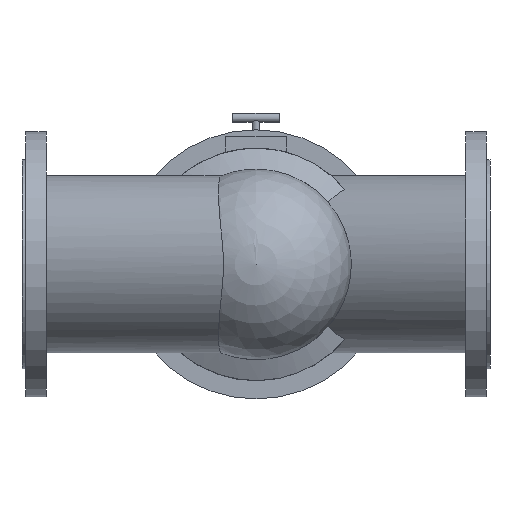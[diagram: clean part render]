
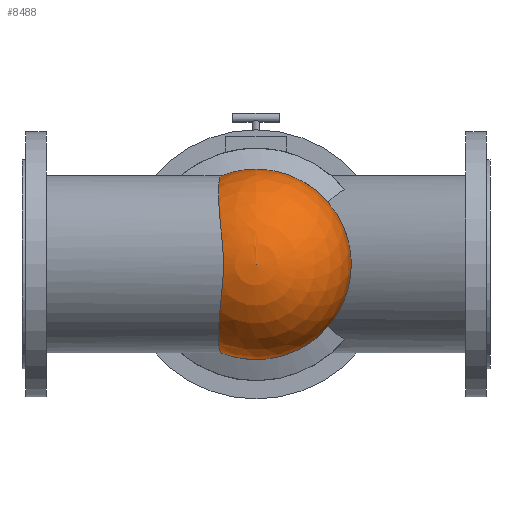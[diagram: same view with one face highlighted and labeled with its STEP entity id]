
A CAD part, front view. The second image highlights one B-rep face of the part: STEP entity #8488.
In plain terms, the highlighted spherical face has radius 122 mm.
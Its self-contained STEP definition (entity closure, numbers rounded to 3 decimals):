
#14=SPHERICAL_SURFACE('',#9021,122.);
#694=B_SPLINE_CURVE_WITH_KNOTS('',3,(#14112,#14113,#14114,#14115,#14116,
#14117,#14118,#14119,#14120,#14121,#14122,#14123,#14124,#14125,#14126,#14127,
#14128,#14129,#14130,#14131,#14132,#14133),.UNSPECIFIED.,.F.,.F.,(4,2,2,
2,2,2,2,2,2,2,4),(0.,1.081,2.161,3.242,
4.322,6.483,8.644,10.848,13.052,
15.256,17.078),.UNSPECIFIED.);
#695=B_SPLINE_CURVE_WITH_KNOTS('',3,(#14134,#14135,#14136,#14137,#14138,
#14139,#14140,#14141,#14142,#14143,#14144,#14145,#14146,#14147,#14148,#14149,
#14150,#14151,#14152,#14153,#14154,#14155),.UNSPECIFIED.,.F.,.F.,(4,2,2,
2,2,2,2,2,2,2,4),(-17.078,-15.256,-13.052,
-10.848,-8.644,-6.483,-4.322,
-3.242,-2.161,-1.081,0.),.UNSPECIFIED.);
#1118=FACE_OUTER_BOUND('',#1619,.T.);
#1619=EDGE_LOOP('',(#7509,#7510,#7511,#7512,#7513,#7514));
#3328=CIRCLE('',#8819,122.);
#3329=CIRCLE('',#8820,122.);
#3402=CIRCLE('',#9022,122.);
#3938=VERTEX_POINT('',#13927);
#3939=VERTEX_POINT('',#13928);
#3940=VERTEX_POINT('',#13930);
#3981=VERTEX_POINT('',#14111);
#4160=VERTEX_POINT('',#14718);
#4961=EDGE_CURVE('',#3938,#3939,#3328,.T.);
#4962=EDGE_CURVE('',#3939,#3940,#3329,.T.);
#5026=EDGE_CURVE('',#3981,#3940,#694,.T.);
#5027=EDGE_CURVE('',#3938,#3981,#695,.T.);
#5297=EDGE_CURVE('',#3939,#4160,#3402,.T.);
#7509=ORIENTED_EDGE('',*,*,#5026,.T.);
#7510=ORIENTED_EDGE('',*,*,#4962,.F.);
#7511=ORIENTED_EDGE('',*,*,#5297,.T.);
#7512=ORIENTED_EDGE('',*,*,#5297,.F.);
#7513=ORIENTED_EDGE('',*,*,#4961,.F.);
#7514=ORIENTED_EDGE('',*,*,#5027,.T.);
#8488=ADVANCED_FACE('',(#1118),#14,.T.);
#8819=AXIS2_PLACEMENT_3D('',#13929,#10175,#10176);
#8820=AXIS2_PLACEMENT_3D('',#13931,#10177,#10178);
#9021=AXIS2_PLACEMENT_3D('',#14717,#10832,#10833);
#9022=AXIS2_PLACEMENT_3D('',#14719,#10834,#10835);
#10175=DIRECTION('center_axis',(0.,1.,0.));
#10176=DIRECTION('ref_axis',(1.,0.,0.));
#10177=DIRECTION('center_axis',(0.,1.,0.));
#10178=DIRECTION('ref_axis',(1.,0.,0.));
#10832=DIRECTION('center_axis',(0.,1.,0.));
#10833=DIRECTION('ref_axis',(0.,0.,-1.));
#10834=DIRECTION('center_axis',(1.,0.,0.));
#10835=DIRECTION('ref_axis',(0.,0.,1.));
#13927=CARTESIAN_POINT('',(-217.093,-132.26,102.687));
#13928=CARTESIAN_POINT('',(-172.193,-132.26,111.25));
#13929=CARTESIAN_POINT('Origin',(-172.193,-132.26,-10.75));
#13930=CARTESIAN_POINT('',(-217.093,-132.26,-124.187));
#13931=CARTESIAN_POINT('Origin',(-172.193,-132.26,-10.75));
#14111=CARTESIAN_POINT('',(-213.91,-246.906,-10.75));
#14112=CARTESIAN_POINT('Ctrl Pts',(-213.91,-246.906,
-10.75));
#14113=CARTESIAN_POINT('Ctrl Pts',(-213.91,-246.906,
-14.352));
#14114=CARTESIAN_POINT('Ctrl Pts',(-214.003,-246.702,
-17.993));
#14115=CARTESIAN_POINT('Ctrl Pts',(-214.351,-245.877,
-25.293));
#14116=CARTESIAN_POINT('Ctrl Pts',(-214.603,-245.256,
-28.952));
#14117=CARTESIAN_POINT('Ctrl Pts',(-215.195,-243.614,-36.229));
#14118=CARTESIAN_POINT('Ctrl Pts',(-215.534,-242.592,
-39.848));
#14119=CARTESIAN_POINT('Ctrl Pts',(-216.232,-240.173,-46.994));
#14120=CARTESIAN_POINT('Ctrl Pts',(-216.591,-238.776,
-50.521));
#14121=CARTESIAN_POINT('Ctrl Pts',(-217.63,-234.065,
-60.883));
#14122=CARTESIAN_POINT('Ctrl Pts',(-218.268,-230.223,-67.507));
#14123=CARTESIAN_POINT('Ctrl Pts',(-219.273,-221.48,
-79.774));
#14124=CARTESIAN_POINT('Ctrl Pts',(-219.643,-216.576,
-85.417));
#14125=CARTESIAN_POINT('Ctrl Pts',(-220.114,-206.118,
-95.523));
#14126=CARTESIAN_POINT('Ctrl Pts',(-220.227,-200.181,
-100.32));
#14127=CARTESIAN_POINT('Ctrl Pts',(-220.171,-187.303,
-108.79));
#14128=CARTESIAN_POINT('Ctrl Pts',(-220.002,-180.363,
-112.462));
#14129=CARTESIAN_POINT('Ctrl Pts',(-219.417,-165.919,
-118.369));
#14130=CARTESIAN_POINT('Ctrl Pts',(-219.,-158.405,
-120.608));
#14131=CARTESIAN_POINT('Ctrl Pts',(-218.078,-144.628,
-123.293));
#14132=CARTESIAN_POINT('Ctrl Pts',(-217.602,-138.374,
-123.986));
#14133=CARTESIAN_POINT('Ctrl Pts',(-217.093,-132.26,
-124.187));
#14134=CARTESIAN_POINT('Ctrl Pts',(-217.093,-132.26,
102.687));
#14135=CARTESIAN_POINT('Ctrl Pts',(-217.602,-138.374,
102.486));
#14136=CARTESIAN_POINT('Ctrl Pts',(-218.078,-144.628,
101.793));
#14137=CARTESIAN_POINT('Ctrl Pts',(-219.,-158.405,
99.108));
#14138=CARTESIAN_POINT('Ctrl Pts',(-219.417,-165.919,
96.869));
#14139=CARTESIAN_POINT('Ctrl Pts',(-220.002,-180.363,
90.962));
#14140=CARTESIAN_POINT('Ctrl Pts',(-220.171,-187.303,
87.29));
#14141=CARTESIAN_POINT('Ctrl Pts',(-220.227,-200.181,
78.82));
#14142=CARTESIAN_POINT('Ctrl Pts',(-220.114,-206.118,
74.023));
#14143=CARTESIAN_POINT('Ctrl Pts',(-219.643,-216.576,
63.917));
#14144=CARTESIAN_POINT('Ctrl Pts',(-219.273,-221.48,
58.274));
#14145=CARTESIAN_POINT('Ctrl Pts',(-218.268,-230.223,46.007));
#14146=CARTESIAN_POINT('Ctrl Pts',(-217.63,-234.065,
39.383));
#14147=CARTESIAN_POINT('Ctrl Pts',(-216.591,-238.776,
29.021));
#14148=CARTESIAN_POINT('Ctrl Pts',(-216.232,-240.173,
25.494));
#14149=CARTESIAN_POINT('Ctrl Pts',(-215.534,-242.592,
18.348));
#14150=CARTESIAN_POINT('Ctrl Pts',(-215.195,-243.614,
14.729));
#14151=CARTESIAN_POINT('Ctrl Pts',(-214.603,-245.256,
7.452));
#14152=CARTESIAN_POINT('Ctrl Pts',(-214.351,-245.877,
3.793));
#14153=CARTESIAN_POINT('Ctrl Pts',(-214.003,-246.702,
-3.507));
#14154=CARTESIAN_POINT('Ctrl Pts',(-213.91,-246.906,
-7.148));
#14155=CARTESIAN_POINT('Ctrl Pts',(-213.91,-246.906,
-10.75));
#14717=CARTESIAN_POINT('Origin',(-172.193,-132.26,-10.75));
#14718=CARTESIAN_POINT('',(-172.193,-254.26,-10.75));
#14719=CARTESIAN_POINT('Origin',(-172.193,-132.26,-10.75));
